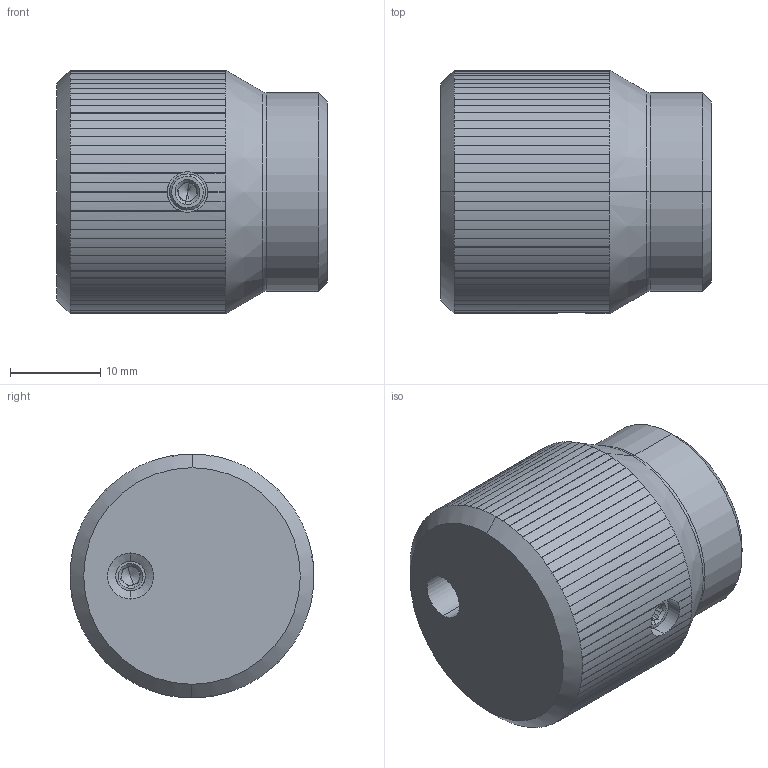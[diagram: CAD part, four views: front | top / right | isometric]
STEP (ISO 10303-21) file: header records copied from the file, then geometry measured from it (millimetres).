
FILE_DESCRIPTION (( 'STEP AP214' ), '1' );
FILE_NAME ('D-K9.STEP', '2019-02-27T13:47:42', ( '' ), ( '' ), 'SwSTEP 2.0', 'SolidWorks 2018', '' );
FILE_SCHEMA (( 'AUTOMOTIVE_DESIGN' ));
Length unit declared in the file: millimetre
Products named in the file (1): D-K9
Bounding box: 30 x 27 x 27 mm (x, y, z)
Volume: 11538.8 mm3; surface area: 4933 mm2
Topology: 3 solids, 3 shells, 603 faces, 1421 edges, 823 vertices
Faces by surface type: plane 460, cylinder 111, cone 26, torus 6
Entity records: 23478 total; most frequent: CARTESIAN_POINT 3110, ORIENTED_EDGE 2830, DIRECTION 2825, EDGE_CURVE 1415, VECTOR 1089, LINE 1089, AXIS2_PLACEMENT_3D 868, VERTEX_POINT 823
